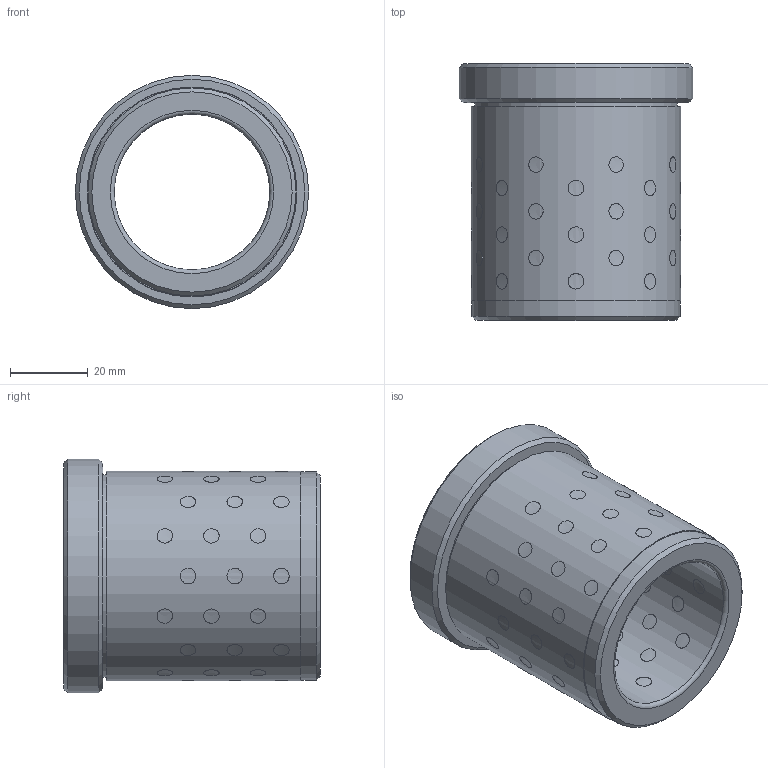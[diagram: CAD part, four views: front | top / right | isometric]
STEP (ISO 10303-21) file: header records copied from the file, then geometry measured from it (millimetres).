
FILE_DESCRIPTION( ( 'STEP AP203' ), '1' );
FILE_NAME( 'D:/Cuma/D30.05/D30.05_4066.step', '2003-01-20T18:26:29', ( ' ' ), ( ' ' ), 'XStep 1.0', ' ', ' ' );
FILE_SCHEMA( ( 'CONFIG_CONTROL_DESIGN' ) );
Length unit declared in the file: metre
Products named in the file (65): 1; 2; 3; 4; 5; 6; 7; 8; 9; 10; 11; 12; 13; 14; 15; 16; 17; 18; 19; 20; 21; 22; 23; 24; 25; 26; 27; 28; 29; 30; 31; 32; 33; 34; 35; 36; 37; 38; 39; 40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
Bounding box: 60 x 66 x 60 mm (x, y, z)
Volume: 78298.4 mm3; surface area: 29855.1 mm2
Topology: 65 solids, 65 shells, 207 faces, 217 edges, 143 vertices
Faces by surface type: cylinder 197, plane 5, cone 3, torus 2
Full cylindrical faces by diameter (mm): 4 x64, 40 x1, 52 x1, 53.5 x1, 54 x1, 60 x1
Entity records: 12897 total; most frequent: CARTESIAN_POINT 7470, DIRECTION 574, CC_DESIGN_PERSON_AND_ORGANIZATION_ASSIGNMENT 325, AXIS2_PLACEMENT_3D 287, EDGE_LOOP 286, ORIENTED_EDGE 286, FACE_OUTER_BOUND 278, PERSON_AND_ORGANIZATION_ROLE 260
